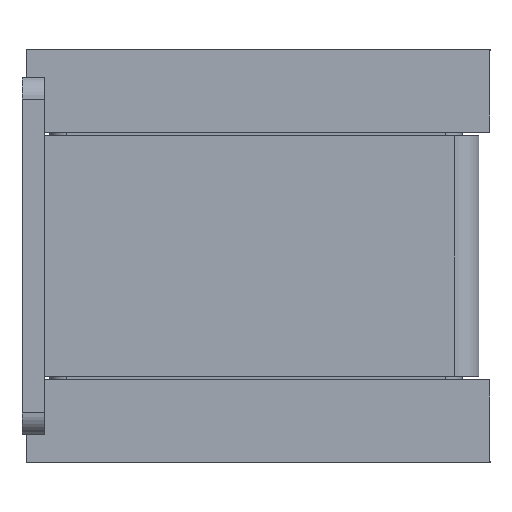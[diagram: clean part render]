
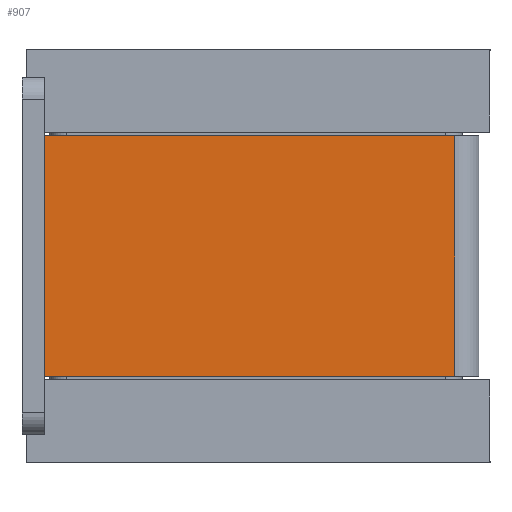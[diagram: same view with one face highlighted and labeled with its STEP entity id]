
A CAD part, left-side view. The second image highlights one B-rep face of the part: STEP entity #907.
In plain terms, the highlighted planar face has unit normal (-1, 0, 0).
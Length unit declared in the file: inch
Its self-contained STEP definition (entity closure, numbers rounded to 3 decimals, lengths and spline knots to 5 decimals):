
#123 = VERTEX_POINT ( 'NONE', #1271 ) ;
#162 = CARTESIAN_POINT ( 'NONE',  ( -1.94062, -2.025, -0.54687 ) ) ;
#212 = VERTEX_POINT ( 'NONE', #4383 ) ;
#326 = ORIENTED_EDGE ( 'NONE', *, *, #1411, .T. ) ;
#427 = CARTESIAN_POINT ( 'NONE',  ( -1.94062, -2.025, 0.54688 ) ) ;
#493 = CARTESIAN_POINT ( 'NONE',  ( -1.94062, -1.965, -0.54687 ) ) ;
#795 = PLANE ( 'NONE',  #1488 ) ;
#815 = CARTESIAN_POINT ( 'NONE',  ( -1.94062, -0.1, 0.54688 ) ) ;
#907 = ADVANCED_FACE ( 'NONE', ( #1715 ), #795, .F. ) ;
#1271 = CARTESIAN_POINT ( 'NONE',  ( -1.94062, -1.965, 0.54688 ) ) ;
#1411 = EDGE_CURVE ( 'NONE', #123, #3924, #3555, .T. ) ;
#1465 = VECTOR ( 'NONE', #3771, 39.37008 ) ;
#1467 = DIRECTION ( 'NONE',  ( 0., 1., 0. ) ) ;
#1488 = AXIS2_PLACEMENT_3D ( 'NONE', #427, #3003, #1467 ) ;
#1641 = CARTESIAN_POINT ( 'NONE',  ( -1.94062, -0.1, -0.54687 ) ) ;
#1715 = FACE_OUTER_BOUND ( 'NONE', #3867, .T. ) ;
#1936 = VERTEX_POINT ( 'NONE', #493 ) ;
#1959 = CARTESIAN_POINT ( 'NONE',  ( -1.94062, -1.965, 0.54688 ) ) ;
#1970 = ORIENTED_EDGE ( 'NONE', *, *, #3468, .T. ) ;
#2016 = VECTOR ( 'NONE', #3870, 39.37008 ) ;
#2022 = DIRECTION ( 'NONE',  ( 0., 0., -1. ) ) ;
#2049 = CARTESIAN_POINT ( 'NONE',  ( -1.94062, -0.1, 0.54688 ) ) ;
#3003 = DIRECTION ( 'NONE',  ( 1., 0., 0. ) ) ;
#3423 = LINE ( 'NONE', #1641, #4618 ) ;
#3468 = EDGE_CURVE ( 'NONE', #212, #1936, #4443, .T. ) ;
#3483 = DIRECTION ( 'NONE',  ( 0., -1., 0. ) ) ;
#3555 = LINE ( 'NONE', #2049, #2016 ) ;
#3688 = ORIENTED_EDGE ( 'NONE', *, *, #4131, .T. ) ;
#3771 = DIRECTION ( 'NONE',  ( 0., 0., -1. ) ) ;
#3867 = EDGE_LOOP ( 'NONE', ( #4485, #326, #3688, #1970 ) ) ;
#3870 = DIRECTION ( 'NONE',  ( 0., 1., 0. ) ) ;
#3924 = VERTEX_POINT ( 'NONE', #815 ) ;
#3955 = EDGE_CURVE ( 'NONE', #123, #1936, #4620, .T. ) ;
#4131 = EDGE_CURVE ( 'NONE', #3924, #212, #3423, .T. ) ;
#4281 = VECTOR ( 'NONE', #3483, 39.37008 ) ;
#4383 = CARTESIAN_POINT ( 'NONE',  ( -1.94062, -0.1, -0.54687 ) ) ;
#4443 = LINE ( 'NONE', #162, #4281 ) ;
#4485 = ORIENTED_EDGE ( 'NONE', *, *, #3955, .F. ) ;
#4618 = VECTOR ( 'NONE', #2022, 39.37008 ) ;
#4620 = LINE ( 'NONE', #1959, #1465 ) ;
